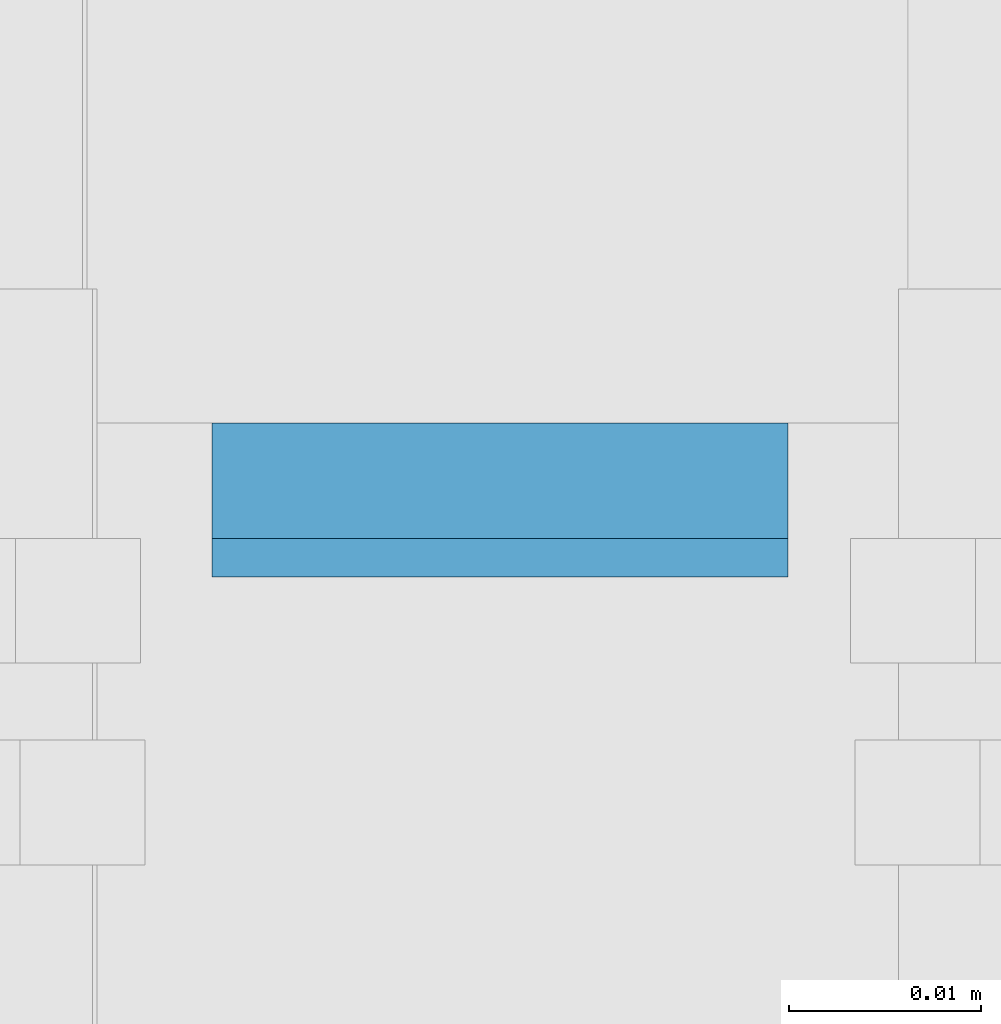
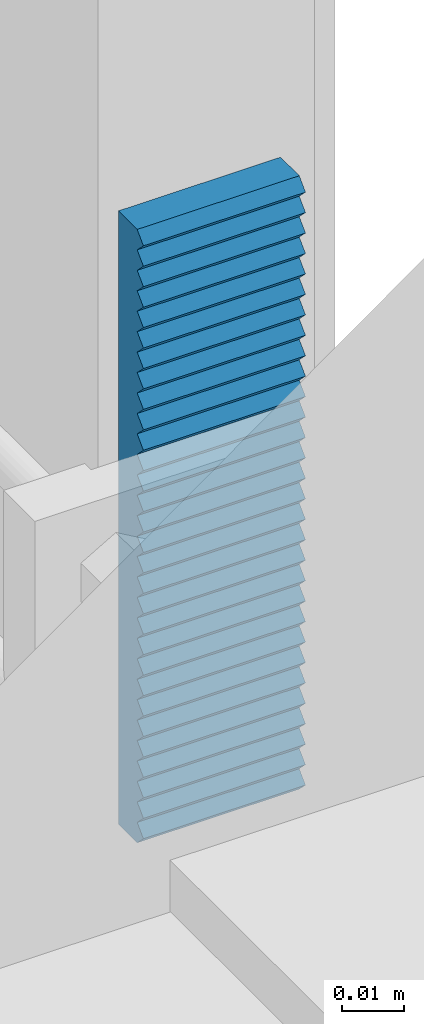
# One storey, part 8 of 13: 1 assembly.
"""IFC2X3 building model written with IfcOpenShell, lengths in metres."""

from ifc_helpers import new_model, entity, si_unit, converted_unit, derived_unit, direction, frame, origin, place, context, subcontext, project, spatial, polyline, outline, extrude, source, transform, mapped, material, type_object, type_shapes, element, save


model = new_model("IFC2X3")

# Units and contexts
model_context = context("Model", 3, precision=1e-05, world=origin(), true_north=direction((6.123031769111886e-17, 1.0)))
body_context = subcontext(model_context, "Body", "Model", "MODEL_VIEW")
ifc_project = project(units=[si_unit("LENGTHUNIT", "METRE"), si_unit("AREAUNIT", "SQUARE_METRE"), converted_unit("PLANEANGLEUNIT", "DEGREE", entity("IfcPlaneAngleMeasure", 0.017453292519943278), si_unit("PLANEANGLEUNIT", "RADIAN"), dimensions=[0, 0, 0, 0, 0, 0, 0]), si_unit("VOLUMEUNIT", "CUBIC_METRE"), derived_unit("THERMALTRANSMITTANCEUNIT", [(si_unit("MASSUNIT", "GRAM", prefix="KILO"), 1), (si_unit("THERMODYNAMICTEMPERATUREUNIT", "KELVIN"), -1), (si_unit("TIMEUNIT", "SECOND"), -3)]), derived_unit("USERDEFINED", [(si_unit("MASSUNIT", "GRAM", prefix="KILO"), 1), (si_unit("THERMODYNAMICTEMPERATUREUNIT", "KELVIN"), -1), (si_unit("TIMEUNIT", "SECOND"), -2)]), derived_unit("THERMALRESISTANCEUNIT", [(si_unit("MASSUNIT", "GRAM", prefix="KILO"), -1), (si_unit("TIMEUNIT", "SECOND"), 3), (si_unit("THERMODYNAMICTEMPERATUREUNIT", "KELVIN"), 1)]), derived_unit("MASSDENSITYUNIT", [(si_unit("MASSUNIT", "GRAM", prefix="KILO"), 1), (si_unit("LENGTHUNIT", "METRE"), -3)]), derived_unit("VAPORPERMEABILITYUNIT", [(si_unit("LENGTHUNIT", "METRE"), -1), (si_unit("TIMEUNIT", "SECOND"), 1)]), derived_unit("USERDEFINED", [(si_unit("MASSUNIT", "GRAM", prefix="KILO"), 1), (si_unit("TIMEUNIT", "SECOND"), -3), (si_unit("LENGTHUNIT", "METRE"), 3), (si_unit("ELECTRICCURRENTUNIT", "AMPERE"), -2)]), si_unit("PRESSUREUNIT", "PASCAL")], contexts=[model_context])

# Site, building, storey
site_placement = place(None, origin())
site = spatial("IfcSite", under=ifc_project, at=site_placement, Name="Default", CompositionType="ELEMENT")
building_placement = place(site_placement, origin())
building = spatial("IfcBuilding", under=site, at=building_placement, CompositionType="ELEMENT")
storey_placement = place(building_placement, origin())
storey = spatial("IfcBuildingStorey", under=building, at=storey_placement, Name="L0", CompositionType="ELEMENT", Elevation=0.0)

# Assembly
ifc_material = material(Name="REC_Acero, S 275JR (Zincado)")
type_product = type_object("IfcTypeProduct", Name="REC-PD120308:PD120308", material=ifc_material)
shared_shape = source(origin(), body_context, "Body", "SweptSolid", [
    extrude(outline(polyline([(-0.006761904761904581, -0.059999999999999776), (-0.0007619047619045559, -0.059999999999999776), (0.0012380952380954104, -0.05799999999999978), (-0.0007619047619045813, -0.05599999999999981), (0.0012380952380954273, -0.05399999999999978), (-0.0007619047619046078, -0.05199999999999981), (0.0012380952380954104, -0.049999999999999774), (-0.0007619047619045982, -0.04799999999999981), (0.0012380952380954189, -0.04599999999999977), (-0.0007619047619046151, -0.04399999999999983), (0.0012380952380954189, -0.041999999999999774), (-0.0007619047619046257, -0.03999999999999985), (0.0012380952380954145, -0.03799999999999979), (-0.0007619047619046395, -0.03599999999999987), (0.001238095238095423, -0.03399999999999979), (-0.00076190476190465, -0.03199999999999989), (0.0012380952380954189, -0.0299999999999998), (-0.0007619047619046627, -0.027999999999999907), (0.001238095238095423, -0.025999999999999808), (-0.0007619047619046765, -0.023999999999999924), (0.0012380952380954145, -0.02199999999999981), (-0.0007619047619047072, -0.019999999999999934), (0.0012380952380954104, -0.017999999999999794), (-0.0007619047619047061, -0.015999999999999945), (0.0012380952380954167, -0.013999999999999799), (-0.0007619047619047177, -0.011999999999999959), (0.0012380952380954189, -0.009999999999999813), (-0.0007619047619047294, -0.00799999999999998), (0.0012380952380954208, -0.005999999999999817), (-0.0007619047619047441, -0.004000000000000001), (0.0012380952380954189, -0.0019999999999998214), (-0.0007619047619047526, 0.0), (0.0012380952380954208, 0.002000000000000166), (-0.0007619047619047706, 0.003999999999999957), (0.0012380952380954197, 0.006000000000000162), (-0.0007619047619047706, 0.007999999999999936), (0.0012380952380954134, 0.010000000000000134), (-0.0007619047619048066, 0.011999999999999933), (0.0012380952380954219, 0.014000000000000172), (-0.0007619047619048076, 0.015999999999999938), (0.0012380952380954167, 0.018000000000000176), (-0.000761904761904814, 0.019999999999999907), (0.0012380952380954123, 0.022000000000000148), (-0.0007619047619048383, 0.023999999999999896), (0.0012380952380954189, 0.02600000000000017), (-0.0007619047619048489, 0.027999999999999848), (0.0012380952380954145, 0.030000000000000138), (-0.0007619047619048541, 0.031999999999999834), (0.0012380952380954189, 0.03400000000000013), (-0.0007619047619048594, 0.035999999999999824), (0.0012380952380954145, 0.03800000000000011), (-0.000761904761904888, 0.03999999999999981), (0.0012380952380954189, 0.04200000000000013), (-0.0007619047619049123, 0.043999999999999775), (0.0012380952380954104, 0.04600000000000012), (-0.0007619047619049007, 0.04799999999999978), (0.0012380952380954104, 0.05000000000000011), (-0.0007619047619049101, 0.05199999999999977), (0.0012380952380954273, 0.05400000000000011), (-0.0007619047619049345, 0.05599999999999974), (0.0012380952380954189, 0.05800000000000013), (-0.0007619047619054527, 0.06000000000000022), (-0.006761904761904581, 0.06000000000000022), (-0.006761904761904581, -0.059999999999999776)])), frame((0.0, -0.014999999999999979, 0.006761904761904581), z_axis=(0.0, 1.0, 0.0), x_axis=(0.0, 0.0, 1.0)), (0.0, 0.0, 1.0), 0.03),
])
type_shapes(type_product, [shared_shape])
assembly_placement = place(storey_placement, frame((7.81648213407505, 15.994530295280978, 0.03199999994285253), z_axis=(0.0, -1.0, 0.0), x_axis=(0.0, 0.0, 1.0)))
element("IfcElementAssembly", 1, at=assembly_placement, inside=storey, type_object=type_product, material=ifc_material, Name="REC-PD120308:PD120308", ObjectType="REC-PD120308:PD120308", AssemblyPlace="NOTDEFINED", PredefinedType="NOTDEFINED", context=body_context, shape_type="MappedRepresentation", body=[
    mapped(shared_shape, transform((0.0, 0.0, 0.0), scale=1.0)),
])

save(model, "model.ifc")
